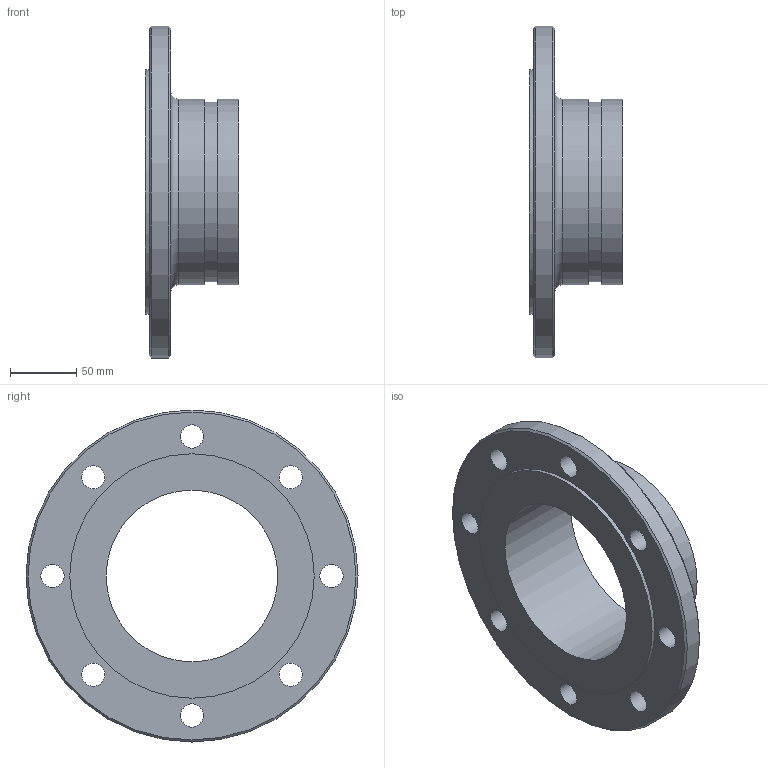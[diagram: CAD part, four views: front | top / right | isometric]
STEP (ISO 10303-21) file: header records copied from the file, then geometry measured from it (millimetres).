
FILE_DESCRIPTION(/* description */ ('VIC FLG ADPTR NIP PN10 RF No 45RE (OGSxFLG)'),/* implementation_level */ '2;1');
FILE_NAME(/* name */ 'C:\Users\vjadhav\OneDrive - Victaulic Company\Desktop\New folder\Victaulic_IPS_Flgd Adptr Nip_PN10 RF_No 45RE (OGSxFLG)\Victaulic_IPS_Flgd Adptr Nip_PN10 RF_No 45RE (OGSxFLG)_05.0 (139.7) (125).stp',/* time_stamp */ '2024-04-01T13:02:20+02:00',/* author */ ('jheald'),/* organization */ ('Victaulic'),/* preprocessor_version */ 'ST-DEVELOPER v18.1',/* originating_system */ 'Autodesk Inventor 2020',/* authorisation */ '');
FILE_SCHEMA (('AUTOMOTIVE_DESIGN { 1 0 10303 214 3 1 1 }'));
Length unit declared in the file: inch
Products named in the file (1): 045RE-05.0 (139.7)
Bounding box: 70.1 x 249.99 x 249.99 mm (x, y, z)
Volume: 690312.8 mm3; surface area: 139456.1 mm2
Topology: 1 solids, 1 shells, 23 faces, 62 edges, 45 vertices
Faces by surface type: cylinder 14, plane 6, cone 2, torus 1
Full cylindrical faces by diameter (mm): 17.526 x8, 129.286 x1, 135.484 x1, 139.7 x2, 183.998 x1, 249.987 x1
Entity records: 872 total; most frequent: DIRECTION 156, CARTESIAN_POINT 131, ORIENTED_EDGE 124, AXIS2_PLACEMENT_3D 70, EDGE_CURVE 62, CIRCLE 46, EDGE_LOOP 45, VERTEX_POINT 45
